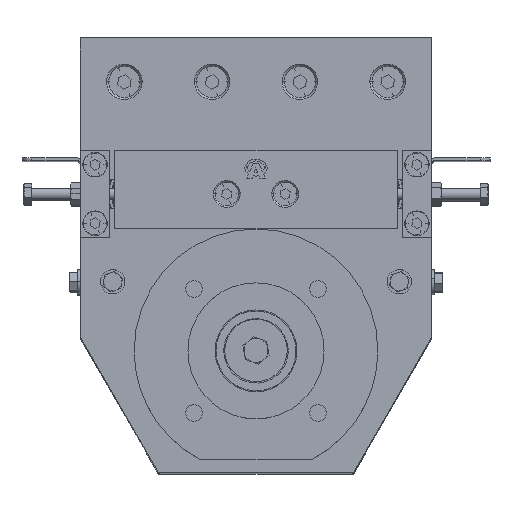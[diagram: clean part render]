
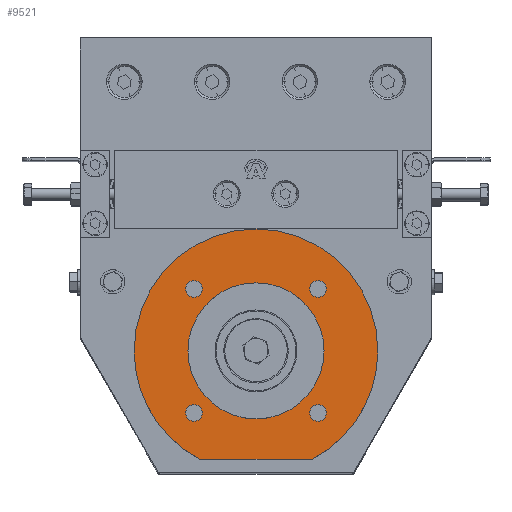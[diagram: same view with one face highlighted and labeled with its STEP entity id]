
A CAD part, top view. The second image highlights one B-rep face of the part: STEP entity #9521.
In plain terms, the highlighted planar face has unit normal (0, 0, 1) as drawn and (-1, 0, 0) by its records, which use the part's own axes.
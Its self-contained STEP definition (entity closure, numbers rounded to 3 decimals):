
#217 = VERTEX_POINT ( 'NONE', #11230 ) ;
#266 = DIRECTION ( 'NONE',  ( 1., 0., 0. ) ) ;
#363 = CIRCLE ( 'NONE', #6880, 34.9 ) ;
#571 = AXIS2_PLACEMENT_3D ( 'NONE', #7470, #28957, #7116 ) ;
#636 = CARTESIAN_POINT ( 'NONE',  ( 2., -31.82, -36.07 ) ) ;
#648 = DIRECTION ( 'NONE',  ( 0., 0., -1. ) ) ;
#737 = ORIENTED_EDGE ( 'NONE', *, *, #6174, .F. ) ;
#818 = ORIENTED_EDGE ( 'NONE', *, *, #30632, .F. ) ;
#1060 = DIRECTION ( 'NONE',  ( 1., 0., 0. ) ) ;
#1496 = AXIS2_PLACEMENT_3D ( 'NONE', #23466, #7548, #10258 ) ;
#1685 = CARTESIAN_POINT ( 'NONE',  ( 2., -55.5, -28.74 ) ) ;
#2239 = EDGE_LOOP ( 'NONE', ( #34209, #737 ) ) ;
#2745 = CARTESIAN_POINT ( 'NONE',  ( 2., -31.82, 31.82 ) ) ;
#2987 = CARTESIAN_POINT ( 'NONE',  ( 2., 0., 0. ) ) ;
#3332 = FACE_BOUND ( 'NONE', #13235, .T. ) ;
#3816 = AXIS2_PLACEMENT_3D ( 'NONE', #31092, #22781, #25508 ) ;
#3962 = DIRECTION ( 'NONE',  ( 1., 0., 0. ) ) ;
#5322 = DIRECTION ( 'NONE',  ( 1., 0., 0. ) ) ;
#5655 = VERTEX_POINT ( 'NONE', #34954 ) ;
#6174 = EDGE_CURVE ( 'NONE', #34343, #12908, #363, .T. ) ;
#6256 = CARTESIAN_POINT ( 'NONE',  ( 2., 0., 34.9 ) ) ;
#6535 = ORIENTED_EDGE ( 'NONE', *, *, #31936, .T. ) ;
#6713 = DIRECTION ( 'NONE',  ( -1., 0., 0. ) ) ;
#6880 = AXIS2_PLACEMENT_3D ( 'NONE', #25337, #6713, #12016 ) ;
#7093 = CIRCLE ( 'NONE', #30977, 4.25 ) ;
#7116 = DIRECTION ( 'NONE',  ( 0., 0., -1. ) ) ;
#7446 = CARTESIAN_POINT ( 'NONE',  ( 2., 31.82, 27.57 ) ) ;
#7470 = CARTESIAN_POINT ( 'NONE',  ( 2., 31.82, -31.82 ) ) ;
#7513 = LINE ( 'NONE', #15496, #24388 ) ;
#7548 = DIRECTION ( 'NONE',  ( -1., 0., 0. ) ) ;
#7837 = CARTESIAN_POINT ( 'NONE',  ( 2., 62.5, 0. ) ) ;
#7955 = PLANE ( 'NONE',  #12604 ) ;
#8834 = AXIS2_PLACEMENT_3D ( 'NONE', #12221, #31361, #20218 ) ;
#8848 = EDGE_CURVE ( 'NONE', #5655, #29080, #31254, .T. ) ;
#9521 = ADVANCED_FACE ( 'NONE', ( #32917, #23160, #3332, #26109, #31224, #13450 ), #7955, .F. ) ;
#9640 = EDGE_CURVE ( 'NONE', #29171, #20425, #15991, .T. ) ;
#10002 = DIRECTION ( 'NONE',  ( 0., 0., -1. ) ) ;
#10144 = EDGE_CURVE ( 'NONE', #14657, #25080, #7093, .T. ) ;
#10233 = ORIENTED_EDGE ( 'NONE', *, *, #12573, .T. ) ;
#10258 = DIRECTION ( 'NONE',  ( 0., 0., 1. ) ) ;
#10298 = DIRECTION ( 'NONE',  ( 0., 0., -1. ) ) ;
#10406 = EDGE_CURVE ( 'NONE', #29917, #17864, #24791, .T. ) ;
#10725 = CARTESIAN_POINT ( 'NONE',  ( 2., -31.82, -31.82 ) ) ;
#11025 = DIRECTION ( 'NONE',  ( 0., 0., -1. ) ) ;
#11230 = CARTESIAN_POINT ( 'NONE',  ( 2., 31.82, 36.07 ) ) ;
#11893 = EDGE_CURVE ( 'NONE', #12908, #34343, #17541, .T. ) ;
#12016 = DIRECTION ( 'NONE',  ( 0., 0., 1. ) ) ;
#12109 = ORIENTED_EDGE ( 'NONE', *, *, #9640, .T. ) ;
#12139 = AXIS2_PLACEMENT_3D ( 'NONE', #29354, #29232, #23887 ) ;
#12221 = CARTESIAN_POINT ( 'NONE',  ( 2., 0., 0. ) ) ;
#12573 = EDGE_CURVE ( 'NONE', #20425, #29171, #23400, .T. ) ;
#12604 = AXIS2_PLACEMENT_3D ( 'NONE', #7837, #31813, #10298 ) ;
#12908 = VERTEX_POINT ( 'NONE', #6256 ) ;
#13018 = ORIENTED_EDGE ( 'NONE', *, *, #10144, .T. ) ;
#13205 = CIRCLE ( 'NONE', #21222, 4.25 ) ;
#13235 = EDGE_LOOP ( 'NONE', ( #16756, #21119 ) ) ;
#13450 = FACE_OUTER_BOUND ( 'NONE', #14031, .T. ) ;
#13673 = CARTESIAN_POINT ( 'NONE',  ( 2., -31.82, -27.57 ) ) ;
#13712 = DIRECTION ( 'NONE',  ( 0., 0., -1. ) ) ;
#13716 = EDGE_LOOP ( 'NONE', ( #10233, #12109 ) ) ;
#14031 = EDGE_LOOP ( 'NONE', ( #25749, #15485, #17097, #818 ) ) ;
#14461 = CARTESIAN_POINT ( 'NONE',  ( 2., -31.82, 36.07 ) ) ;
#14657 = VERTEX_POINT ( 'NONE', #13673 ) ;
#14981 = CIRCLE ( 'NONE', #23952, 4.25 ) ;
#15485 = ORIENTED_EDGE ( 'NONE', *, *, #33957, .T. ) ;
#15496 = CARTESIAN_POINT ( 'NONE',  ( 2., -55.5, 28.74 ) ) ;
#15841 = DIRECTION ( 'NONE',  ( 0., 0., -1. ) ) ;
#15895 = EDGE_CURVE ( 'NONE', #29137, #33113, #18185, .T. ) ;
#15991 = CIRCLE ( 'NONE', #23916, 4.25 ) ;
#16648 = DIRECTION ( 'NONE',  ( 0., 0., 1. ) ) ;
#16756 = ORIENTED_EDGE ( 'NONE', *, *, #24449, .T. ) ;
#16989 = CARTESIAN_POINT ( 'NONE',  ( 2., 31.82, 31.82 ) ) ;
#17097 = ORIENTED_EDGE ( 'NONE', *, *, #15895, .T. ) ;
#17541 = CIRCLE ( 'NONE', #8834, 34.9 ) ;
#17864 = VERTEX_POINT ( 'NONE', #28434 ) ;
#18002 = DIRECTION ( 'NONE',  ( 1., 0., 0. ) ) ;
#18185 = CIRCLE ( 'NONE', #31359, 62.5 ) ;
#18606 = EDGE_LOOP ( 'NONE', ( #6535, #13018 ) ) ;
#19218 = EDGE_CURVE ( 'NONE', #29080, #5655, #20505, .T. ) ;
#19239 = DIRECTION ( 'NONE',  ( -1., 0., 0. ) ) ;
#19514 = CIRCLE ( 'NONE', #1496, 62.5 ) ;
#19664 = EDGE_LOOP ( 'NONE', ( #32399, #33948 ) ) ;
#19754 = CARTESIAN_POINT ( 'NONE',  ( 2., 0., -62.5 ) ) ;
#20218 = DIRECTION ( 'NONE',  ( 0., 0., 1. ) ) ;
#20368 = CARTESIAN_POINT ( 'NONE',  ( 2., -31.82, -31.82 ) ) ;
#20425 = VERTEX_POINT ( 'NONE', #28020 ) ;
#20505 = CIRCLE ( 'NONE', #571, 4.25 ) ;
#20805 = DIRECTION ( 'NONE',  ( 0., 0., -1. ) ) ;
#20910 = DIRECTION ( 'NONE',  ( 1., 0., 0. ) ) ;
#21119 = ORIENTED_EDGE ( 'NONE', *, *, #33582, .T. ) ;
#21194 = VERTEX_POINT ( 'NONE', #7446 ) ;
#21222 = AXIS2_PLACEMENT_3D ( 'NONE', #16989, #1060, #25488 ) ;
#21355 = CIRCLE ( 'NONE', #30038, 4.25 ) ;
#22781 = DIRECTION ( 'NONE',  ( -1., 0., 0. ) ) ;
#23160 = FACE_BOUND ( 'NONE', #13716, .T. ) ;
#23201 = CARTESIAN_POINT ( 'NONE',  ( 2., -55.5, 28.74 ) ) ;
#23400 = CIRCLE ( 'NONE', #23967, 4.25 ) ;
#23466 = CARTESIAN_POINT ( 'NONE',  ( 2., 0., 0. ) ) ;
#23887 = DIRECTION ( 'NONE',  ( 0., 0., -1. ) ) ;
#23916 = AXIS2_PLACEMENT_3D ( 'NONE', #2745, #266, #13712 ) ;
#23952 = AXIS2_PLACEMENT_3D ( 'NONE', #32891, #3962, #11025 ) ;
#23967 = AXIS2_PLACEMENT_3D ( 'NONE', #26828, #20910, #15841 ) ;
#24388 = VECTOR ( 'NONE', #20805, 1000. ) ;
#24449 = EDGE_CURVE ( 'NONE', #21194, #217, #14981, .T. ) ;
#24791 = CIRCLE ( 'NONE', #3816, 62.5 ) ;
#25080 = VERTEX_POINT ( 'NONE', #636 ) ;
#25337 = CARTESIAN_POINT ( 'NONE',  ( 2., 0., 0. ) ) ;
#25488 = DIRECTION ( 'NONE',  ( 0., 0., -1. ) ) ;
#25508 = DIRECTION ( 'NONE',  ( 0., 0., 1. ) ) ;
#25749 = ORIENTED_EDGE ( 'NONE', *, *, #10406, .T. ) ;
#26109 = FACE_BOUND ( 'NONE', #19664, .T. ) ;
#26828 = CARTESIAN_POINT ( 'NONE',  ( 2., -31.82, 31.82 ) ) ;
#27244 = CARTESIAN_POINT ( 'NONE',  ( 2., 31.82, -27.57 ) ) ;
#27944 = CARTESIAN_POINT ( 'NONE',  ( 2., 0., -34.9 ) ) ;
#28020 = CARTESIAN_POINT ( 'NONE',  ( 2., -31.82, 27.57 ) ) ;
#28434 = CARTESIAN_POINT ( 'NONE',  ( 2., 0., 62.5 ) ) ;
#28957 = DIRECTION ( 'NONE',  ( 1., 0., 0. ) ) ;
#29080 = VERTEX_POINT ( 'NONE', #27244 ) ;
#29137 = VERTEX_POINT ( 'NONE', #19754 ) ;
#29171 = VERTEX_POINT ( 'NONE', #14461 ) ;
#29232 = DIRECTION ( 'NONE',  ( 1., 0., 0. ) ) ;
#29354 = CARTESIAN_POINT ( 'NONE',  ( 2., 31.82, -31.82 ) ) ;
#29917 = VERTEX_POINT ( 'NONE', #23201 ) ;
#30038 = AXIS2_PLACEMENT_3D ( 'NONE', #20368, #18002, #10002 ) ;
#30632 = EDGE_CURVE ( 'NONE', #29917, #33113, #7513, .T. ) ;
#30977 = AXIS2_PLACEMENT_3D ( 'NONE', #10725, #5322, #648 ) ;
#31092 = CARTESIAN_POINT ( 'NONE',  ( 2., 0., 0. ) ) ;
#31224 = FACE_BOUND ( 'NONE', #2239, .T. ) ;
#31254 = CIRCLE ( 'NONE', #12139, 4.25 ) ;
#31359 = AXIS2_PLACEMENT_3D ( 'NONE', #2987, #19239, #16648 ) ;
#31361 = DIRECTION ( 'NONE',  ( -1., 0., 0. ) ) ;
#31813 = DIRECTION ( 'NONE',  ( 1., 0., 0. ) ) ;
#31936 = EDGE_CURVE ( 'NONE', #25080, #14657, #21355, .T. ) ;
#32399 = ORIENTED_EDGE ( 'NONE', *, *, #8848, .T. ) ;
#32891 = CARTESIAN_POINT ( 'NONE',  ( 2., 31.82, 31.82 ) ) ;
#32917 = FACE_BOUND ( 'NONE', #18606, .T. ) ;
#33113 = VERTEX_POINT ( 'NONE', #1685 ) ;
#33582 = EDGE_CURVE ( 'NONE', #217, #21194, #13205, .T. ) ;
#33948 = ORIENTED_EDGE ( 'NONE', *, *, #19218, .T. ) ;
#33957 = EDGE_CURVE ( 'NONE', #17864, #29137, #19514, .T. ) ;
#34209 = ORIENTED_EDGE ( 'NONE', *, *, #11893, .F. ) ;
#34343 = VERTEX_POINT ( 'NONE', #27944 ) ;
#34954 = CARTESIAN_POINT ( 'NONE',  ( 2., 31.82, -36.07 ) ) ;
